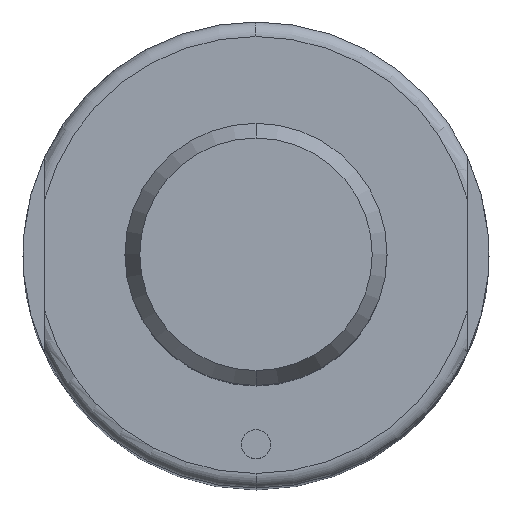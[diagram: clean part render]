
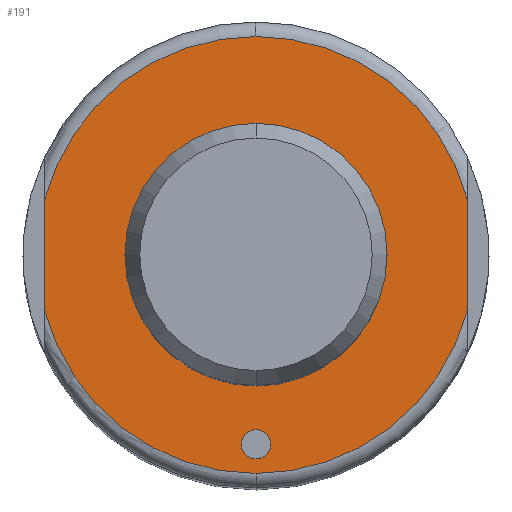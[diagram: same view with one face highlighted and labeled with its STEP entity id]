
A CAD part, top view. The second image highlights one B-rep face of the part: STEP entity #191.
In plain terms, the highlighted planar face has unit normal (0, 0, 1).
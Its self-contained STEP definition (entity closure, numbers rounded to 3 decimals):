
#115=FACE_BOUND('',#292,.T.);
#116=FACE_BOUND('',#293,.T.);
#117=FACE_BOUND('',#294,.T.);
#126=PLANE('',#862);
#191=ADVANCED_FACE('',(#115,#116,#117),#126,.T.);
#292=EDGE_LOOP('',(#515,#516,#517,#518,#519,#520));
#293=EDGE_LOOP('',(#521,#522));
#294=EDGE_LOOP('',(#523,#524));
#303=CIRCLE('',#774,9.);
#304=CIRCLE('',#776,9.);
#310=CIRCLE('',#786,1.);
#311=CIRCLE('',#788,1.);
#343=CIRCLE('',#846,15.);
#344=CIRCLE('',#848,15.);
#348=CIRCLE('',#854,15.);
#352=CIRCLE('',#860,15.);
#515=ORIENTED_EDGE('',*,*,#691,.F.);
#516=ORIENTED_EDGE('',*,*,#690,.F.);
#517=ORIENTED_EDGE('',*,*,#674,.F.);
#518=ORIENTED_EDGE('',*,*,#692,.F.);
#519=ORIENTED_EDGE('',*,*,#672,.F.);
#520=ORIENTED_EDGE('',*,*,#683,.F.);
#521=ORIENTED_EDGE('',*,*,#621,.F.);
#522=ORIENTED_EDGE('',*,*,#620,.F.);
#523=ORIENTED_EDGE('',*,*,#610,.T.);
#524=ORIENTED_EDGE('',*,*,#608,.T.);
#545=VERTEX_POINT('',#1117);
#546=VERTEX_POINT('',#1119);
#551=VERTEX_POINT('',#1138);
#554=VERTEX_POINT('',#1143);
#586=VERTEX_POINT('',#1259);
#588=VERTEX_POINT('',#1263);
#589=VERTEX_POINT('',#1274);
#591=VERTEX_POINT('',#1277);
#595=VERTEX_POINT('',#1298);
#600=VERTEX_POINT('',#1319);
#608=EDGE_CURVE('',#546,#545,#303,.T.);
#610=EDGE_CURVE('',#545,#546,#304,.T.);
#620=EDGE_CURVE('',#554,#551,#310,.T.);
#621=EDGE_CURVE('',#551,#554,#311,.T.);
#672=EDGE_CURVE('',#588,#586,#343,.T.);
#674=EDGE_CURVE('',#589,#591,#344,.T.);
#683=EDGE_CURVE('',#595,#588,#348,.T.);
#690=EDGE_CURVE('',#591,#600,#352,.T.);
#691=EDGE_CURVE('',#600,#595,#727,.T.);
#692=EDGE_CURVE('',#586,#589,#728,.T.);
#727=LINE('',#1322,#763);
#728=LINE('',#1323,#764);
#763=VECTOR('',#1089,1.);
#764=VECTOR('',#1090,1.);
#774=AXIS2_PLACEMENT_3D('',#1118,#884,#885);
#776=AXIS2_PLACEMENT_3D('',#1122,#889,#890);
#786=AXIS2_PLACEMENT_3D('',#1144,#913,#914);
#788=AXIS2_PLACEMENT_3D('',#1146,#917,#918);
#846=AXIS2_PLACEMENT_3D('',#1264,#1051,#1052);
#848=AXIS2_PLACEMENT_3D('',#1276,#1055,#1056);
#854=AXIS2_PLACEMENT_3D('',#1300,#1071,#1072);
#860=AXIS2_PLACEMENT_3D('',#1320,#1085,#1086);
#862=AXIS2_PLACEMENT_3D('',#1324,#1091,#1092);
#884=DIRECTION('',(0.,0.,-1.));
#885=DIRECTION('',(-1.,0.,0.));
#889=DIRECTION('',(0.,0.,-1.));
#890=DIRECTION('',(1.,0.,0.));
#913=DIRECTION('',(0.,0.,1.));
#914=DIRECTION('',(-1.,0.,0.));
#917=DIRECTION('',(0.,0.,1.));
#918=DIRECTION('',(1.,0.,0.));
#1051=DIRECTION('',(0.,0.,-1.));
#1052=DIRECTION('',(-1.,0.,0.));
#1055=DIRECTION('',(0.,0.,-1.));
#1056=DIRECTION('',(-1.,0.,0.));
#1071=DIRECTION('',(0.,0.,-1.));
#1072=DIRECTION('',(1.,0.,0.));
#1085=DIRECTION('',(0.,0.,-1.));
#1086=DIRECTION('',(1.,0.,0.));
#1089=DIRECTION('',(0.,1.,0.));
#1090=DIRECTION('',(0.,-1.,0.));
#1091=DIRECTION('',(0.,0.,1.));
#1092=DIRECTION('',(1.,0.,0.));
#1117=CARTESIAN_POINT('',(0.,-9.,78.));
#1118=CARTESIAN_POINT('',(0.,0.,78.));
#1119=CARTESIAN_POINT('',(0.,9.,78.));
#1122=CARTESIAN_POINT('',(0.,0.,78.));
#1138=CARTESIAN_POINT('',(0.,-12.,78.));
#1143=CARTESIAN_POINT('',(0.,-14.,78.));
#1144=CARTESIAN_POINT('',(0.,-13.,78.));
#1146=CARTESIAN_POINT('',(0.,-13.,78.));
#1259=CARTESIAN_POINT('',(14.5,3.841,78.));
#1263=CARTESIAN_POINT('',(0.,15.,78.));
#1264=CARTESIAN_POINT('',(0.,0.,78.));
#1274=CARTESIAN_POINT('',(14.5,-3.841,78.));
#1276=CARTESIAN_POINT('',(0.,0.,78.));
#1277=CARTESIAN_POINT('',(0.,-15.,78.));
#1298=CARTESIAN_POINT('',(-14.5,3.841,78.));
#1300=CARTESIAN_POINT('',(0.,0.,78.));
#1319=CARTESIAN_POINT('',(-14.5,-3.841,78.));
#1320=CARTESIAN_POINT('',(0.,0.,78.));
#1322=CARTESIAN_POINT('',(-14.5,0.,78.));
#1323=CARTESIAN_POINT('',(14.5,0.,78.));
#1324=CARTESIAN_POINT('',(0.,0.,78.));
